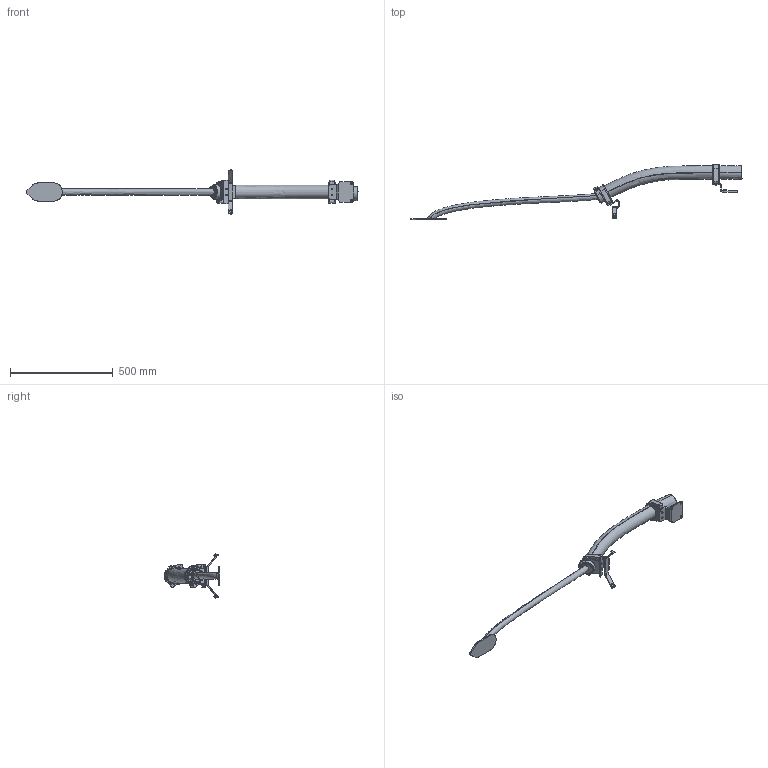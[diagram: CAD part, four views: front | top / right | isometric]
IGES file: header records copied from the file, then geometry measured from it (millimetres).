
Start section: SolidWorks IGES file using analytic representation for surfaces
Global section: file name: C:\Users\SEJAOLS6\OneDrive - ABB\Documents\SAP\7710\7710_Lightweight_models\IRB7710-MH3_310kg-350_OC_01_SW_J\IRB7710-MH3_310kg-350_OC_01_IGES_J\IRB77X0-MH3_All-350_OC_00_LINK04_CABLE.igs; native system: SolidWorks 2024; preprocessor: SolidWorks 2024; author: SEJAOLS6; date: 260127.072138; units: millimetre
Bounding box: 1613 x 271.45 x 214.13 mm (x, y, z)
Surface area: 362806.4 mm2 (no closed solid volume)
Topology: 0 solids, 0 shells, 320 faces, 4843 edges, 4843 vertices
Faces by surface type: bspline 207, revolution 113
